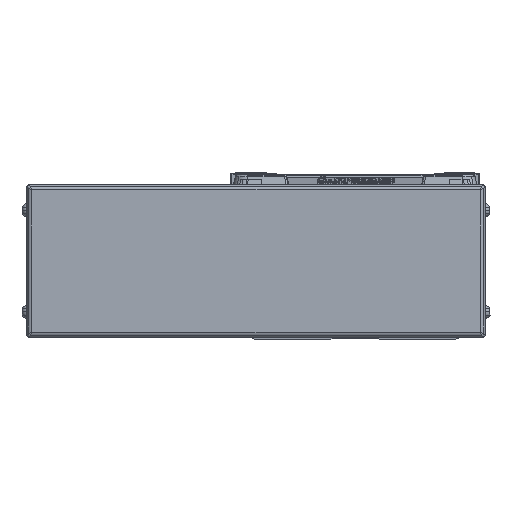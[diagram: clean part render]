
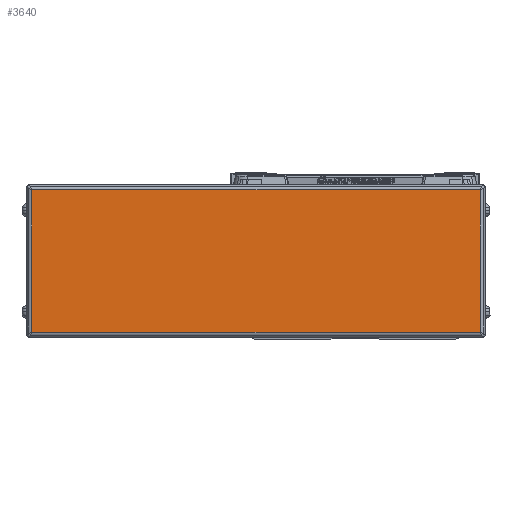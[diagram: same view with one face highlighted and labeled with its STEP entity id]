
A CAD part, left-side view. The second image highlights one B-rep face of the part: STEP entity #3640.
In plain terms, the highlighted planar face has unit normal (-1, 0, 0).
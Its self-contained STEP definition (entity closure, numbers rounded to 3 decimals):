
#3640=ADVANCED_FACE('',(#8572),#8573,.F.);
#8572=FACE_OUTER_BOUND('',#15311,.T.);
#8573=PLANE('',#15312);
#15311=EDGE_LOOP('',(#26029,#26030,#26031,#26032));
#15312=AXIS2_PLACEMENT_3D('',#26033,#26034,#26035);
#26029=ORIENTED_EDGE('',*,*,#41375,.T.);
#26030=ORIENTED_EDGE('',*,*,#41934,.T.);
#26031=ORIENTED_EDGE('',*,*,#41647,.T.);
#26032=ORIENTED_EDGE('',*,*,#41935,.T.);
#26033=CARTESIAN_POINT('',(-616.,39.,0.));
#26034=DIRECTION('',(1.0,0.,0.));
#26035=DIRECTION('',(0.,0.,1.0));
#41375=EDGE_CURVE('',#50526,#50524,#50527,.T.);
#41647=EDGE_CURVE('',#50928,#50926,#50929,.T.);
#41934=EDGE_CURVE('',#50524,#50928,#51361,.T.);
#41935=EDGE_CURVE('',#50926,#50526,#51362,.T.);
#50524=VERTEX_POINT('',#63191);
#50526=VERTEX_POINT('',#63193);
#50527=LINE('',#63194,#63195);
#50926=VERTEX_POINT('',#63725);
#50928=VERTEX_POINT('',#63727);
#50929=LINE('',#63728,#63729);
#51361=LINE('',#64335,#64336);
#51362=LINE('',#64337,#64338);
#63191=CARTESIAN_POINT('',(-616.,127.2,28.));
#63193=CARTESIAN_POINT('',(-616.,-49.2,28.));
#63194=CARTESIAN_POINT('',(-616.,39.,28.));
#63195=VECTOR('',#75162,10.0);
#63725=CARTESIAN_POINT('',(-616.,-49.2,-28.));
#63727=CARTESIAN_POINT('',(-616.0,127.2,-28.));
#63728=CARTESIAN_POINT('',(-616.,39.,-28.));
#63729=VECTOR('',#75576,10.0);
#64335=CARTESIAN_POINT('',(-616.0,127.2,0.));
#64336=VECTOR('',#75907,10.0);
#64337=CARTESIAN_POINT('',(-616.,-49.2,0.));
#64338=VECTOR('',#75908,10.0);
#75162=DIRECTION('',(0.,1.0,0.));
#75576=DIRECTION('',(0.,-1.0,0.));
#75907=DIRECTION('',(0.,0.,-1.0));
#75908=DIRECTION('',(0.,0.,1.0));
